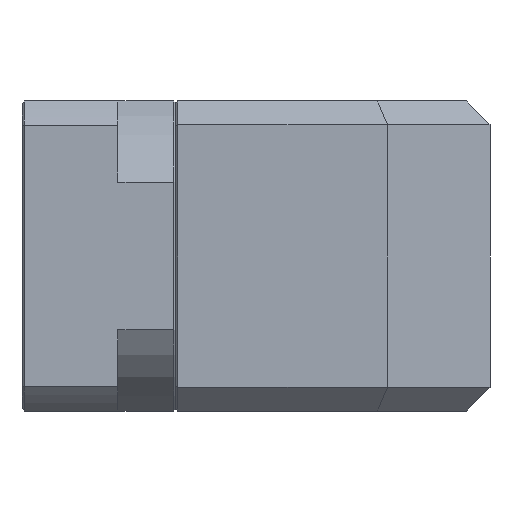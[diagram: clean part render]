
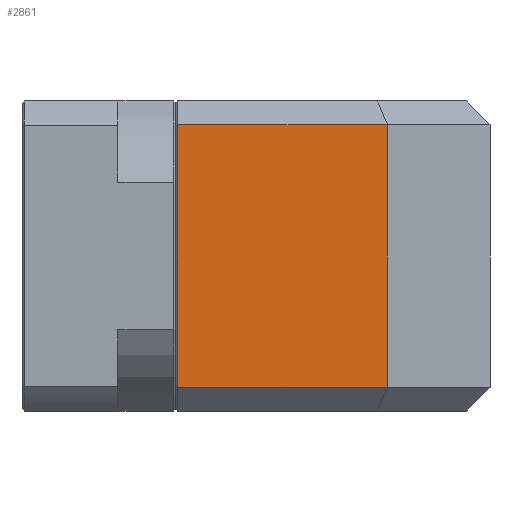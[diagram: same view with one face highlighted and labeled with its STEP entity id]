
A CAD part, front view. The second image highlights one B-rep face of the part: STEP entity #2861.
In plain terms, the highlighted planar face has unit normal (0, -1, 0) as drawn and (-1, 0, 0) by its records, which use the part's own axes.
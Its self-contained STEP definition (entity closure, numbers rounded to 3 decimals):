
#2360=DIRECTION('',(0.,1.,0.));
#2361=VECTOR('',#2360,55.);
#2362=CARTESIAN_POINT('',(0.,-27.5,11.));
#2363=LINE('',#2362,#2361);
#2364=DIRECTION('',(0.,0.,1.));
#2365=VECTOR('',#2364,44.);
#2366=CARTESIAN_POINT('',(0.,-27.5,-33.));
#2367=LINE('',#2366,#2365);
#2368=DIRECTION('',(0.,-1.,0.));
#2369=VECTOR('',#2368,55.);
#2370=CARTESIAN_POINT('',(0.,27.5,-33.));
#2371=LINE('',#2370,#2369);
#2372=DIRECTION('',(0.,0.,-1.));
#2373=VECTOR('',#2372,44.);
#2374=CARTESIAN_POINT('',(0.,27.5,11.));
#2375=LINE('',#2374,#2373);
#2560=CARTESIAN_POINT('',(0.,27.5,-33.));
#2561=CARTESIAN_POINT('',(0.,-27.5,-33.));
#2562=VERTEX_POINT('',#2560);
#2563=VERTEX_POINT('',#2561);
#2586=CARTESIAN_POINT('',(0.,-27.5,11.));
#2587=CARTESIAN_POINT('',(0.,27.5,11.));
#2588=VERTEX_POINT('',#2586);
#2589=VERTEX_POINT('',#2587);
#2847=CARTESIAN_POINT('',(0.,0.,0.));
#2848=DIRECTION('',(1.,0.,0.));
#2849=DIRECTION('',(0.,0.,-1.));
#2850=AXIS2_PLACEMENT_3D('',#2847,#2848,#2849);
#2851=PLANE('',#2850);
#2853=ORIENTED_EDGE('',*,*,#2852,.F.);
#2854=ORIENTED_EDGE('',*,*,#2837,.F.);
#2856=ORIENTED_EDGE('',*,*,#2855,.F.);
#2858=ORIENTED_EDGE('',*,*,#2857,.F.);
#2859=EDGE_LOOP('',(#2853,#2854,#2856,#2858));
#2860=FACE_OUTER_BOUND('',#2859,.F.);
#2861=ADVANCED_FACE('',(#2860),#2851,.F.);
#2837=EDGE_CURVE('',#2563,#2588,#2367,.T.);
#2852=EDGE_CURVE('',#2588,#2589,#2363,.T.);
#2855=EDGE_CURVE('',#2562,#2563,#2371,.T.);
#2857=EDGE_CURVE('',#2589,#2562,#2375,.T.);
